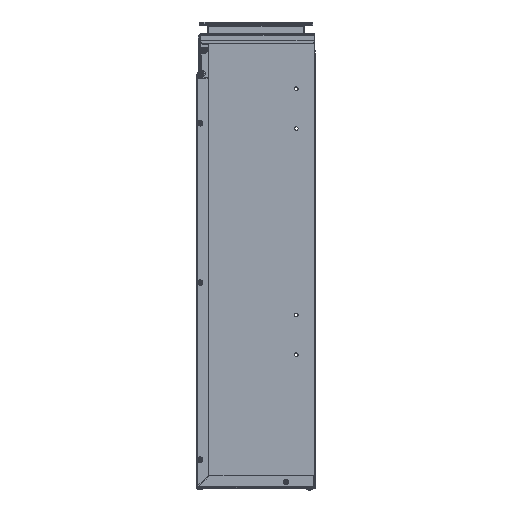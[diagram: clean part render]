
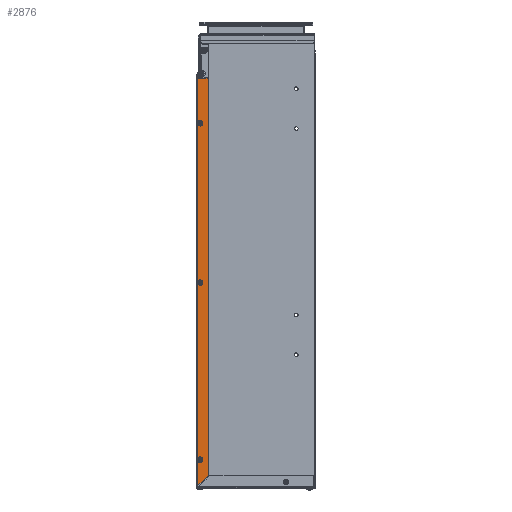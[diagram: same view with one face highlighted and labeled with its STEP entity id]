
A CAD part, left-side view. The second image highlights one B-rep face of the part: STEP entity #2876.
In plain terms, the highlighted planar face has unit normal (-1, 0, 0).
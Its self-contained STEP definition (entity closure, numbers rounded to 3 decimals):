
#145 = ORIENTED_EDGE ( 'NONE', *, *, #45522, .T. ) ;
#370 = FACE_BOUND ( 'NONE', #34185, .T. ) ;
#1682 = AXIS2_PLACEMENT_3D ( 'NONE', #19118, #27273, #39101 ) ;
#1796 = DIRECTION ( 'NONE',  ( 0., 1., 0. ) ) ;
#2004 = DIRECTION ( 'NONE',  ( 0., 0.707, -0.707 ) ) ;
#2162 = DIRECTION ( 'NONE',  ( 0., 0., 1. ) ) ;
#2625 = VERTEX_POINT ( 'NONE', #6181 ) ;
#2665 = DIRECTION ( 'NONE',  ( -1., 0., 0. ) ) ;
#2876 = ADVANCED_FACE ( 'NONE', ( #48918, #370, #44492, #12722 ), #12443, .F. ) ;
#3477 = EDGE_CURVE ( 'NONE', #45363, #15879, #49457, .T. ) ;
#5079 = CARTESIAN_POINT ( 'NONE',  ( -275.75, -2.625, -199.22 ) ) ;
#5228 = VERTEX_POINT ( 'NONE', #40231 ) ;
#5310 = VERTEX_POINT ( 'NONE', #8436 ) ;
#6181 = CARTESIAN_POINT ( 'NONE',  ( -275.75, -13.4, 231.6 ) ) ;
#6186 = VERTEX_POINT ( 'NONE', #18260 ) ;
#6212 = CARTESIAN_POINT ( 'NONE',  ( -275.75, -4.5, 0.78 ) ) ;
#7837 = CARTESIAN_POINT ( 'NONE',  ( -275.75, -4.5, 180.78 ) ) ;
#8194 = VERTEX_POINT ( 'NONE', #33700 ) ;
#8436 = CARTESIAN_POINT ( 'NONE',  ( -275.75, -6.375, 0.78 ) ) ;
#9959 = CIRCLE ( 'NONE', #40165, 1.875 ) ;
#10365 = EDGE_CURVE ( 'NONE', #23731, #36440, #14333, .T. ) ;
#10857 = EDGE_LOOP ( 'NONE', ( #11989, #29069 ) ) ;
#10921 = DIRECTION ( 'NONE',  ( -1., 0., 0. ) ) ;
#11343 = EDGE_LOOP ( 'NONE', ( #46153, #35085 ) ) ;
#11541 = CARTESIAN_POINT ( 'NONE',  ( -275.75, -4.5, -199.22 ) ) ;
#11643 = LINE ( 'NONE', #44467, #26635 ) ;
#11989 = ORIENTED_EDGE ( 'NONE', *, *, #3477, .F. ) ;
#12443 = PLANE ( 'NONE',  #14199 ) ;
#12722 = FACE_OUTER_BOUND ( 'NONE', #28098, .T. ) ;
#12975 = DIRECTION ( 'NONE',  ( 0., -1., 0. ) ) ;
#13624 = ORIENTED_EDGE ( 'NONE', *, *, #43304, .T. ) ;
#14073 = CARTESIAN_POINT ( 'NONE',  ( -275.75, -13.4, 230.6 ) ) ;
#14199 = AXIS2_PLACEMENT_3D ( 'NONE', #28474, #40023, #12975 ) ;
#14252 = CIRCLE ( 'NONE', #50275, 1.875 ) ;
#14263 = VECTOR ( 'NONE', #2162, 1000. ) ;
#14333 = LINE ( 'NONE', #29818, #49110 ) ;
#14513 = ORIENTED_EDGE ( 'NONE', *, *, #46318, .F. ) ;
#15076 = DIRECTION ( 'NONE',  ( -1., 0., 0. ) ) ;
#15879 = VERTEX_POINT ( 'NONE', #20954 ) ;
#16237 = VERTEX_POINT ( 'NONE', #47938 ) ;
#17426 = CIRCLE ( 'NONE', #19098, 1. ) ;
#17534 = EDGE_CURVE ( 'NONE', #6186, #42514, #14252, .T. ) ;
#18126 = ORIENTED_EDGE ( 'NONE', *, *, #45456, .F. ) ;
#18260 = CARTESIAN_POINT ( 'NONE',  ( -275.75, -2.625, 180.78 ) ) ;
#18638 = DIRECTION ( 'NONE',  ( -1., 0., 0. ) ) ;
#19098 = AXIS2_PLACEMENT_3D ( 'NONE', #14073, #10921, #22985 ) ;
#19118 = CARTESIAN_POINT ( 'NONE',  ( -275.75, -4.5, 180.78 ) ) ;
#19974 = CARTESIAN_POINT ( 'NONE',  ( -275.75, -6.375, 180.78 ) ) ;
#20954 = CARTESIAN_POINT ( 'NONE',  ( -275.75, -6.375, -199.22 ) ) ;
#22180 = LINE ( 'NONE', #38498, #48431 ) ;
#22221 = CARTESIAN_POINT ( 'NONE',  ( -275.75, -4.5, -199.22 ) ) ;
#22985 = DIRECTION ( 'NONE',  ( 0., 1., 0. ) ) ;
#23373 = DIRECTION ( 'NONE',  ( 0., 1., 0. ) ) ;
#23731 = VERTEX_POINT ( 'NONE', #36055 ) ;
#24296 = CIRCLE ( 'NONE', #1682, 1.875 ) ;
#26137 = CARTESIAN_POINT ( 'NONE',  ( -275.75, -4.5, 0.78 ) ) ;
#26249 = ORIENTED_EDGE ( 'NONE', *, *, #28846, .T. ) ;
#26635 = VECTOR ( 'NONE', #51513, 1000. ) ;
#26838 = AXIS2_PLACEMENT_3D ( 'NONE', #11541, #2665, #23373 ) ;
#26900 = AXIS2_PLACEMENT_3D ( 'NONE', #26137, #15076, #46322 ) ;
#27273 = DIRECTION ( 'NONE',  ( -1., 0., 0. ) ) ;
#28098 = EDGE_LOOP ( 'NONE', ( #50571, #145, #13624, #26249, #48969, #18126 ) ) ;
#28474 = CARTESIAN_POINT ( 'NONE',  ( -275.75, 0., 0. ) ) ;
#28846 = EDGE_CURVE ( 'NONE', #5228, #2625, #17426, .T. ) ;
#29069 = ORIENTED_EDGE ( 'NONE', *, *, #38729, .F. ) ;
#29818 = CARTESIAN_POINT ( 'NONE',  ( -275.75, -327.681, 96.788 ) ) ;
#29854 = DIRECTION ( 'NONE',  ( 0., 1., 0. ) ) ;
#31053 = CIRCLE ( 'NONE', #38619, 1. ) ;
#31778 = ORIENTED_EDGE ( 'NONE', *, *, #38715, .F. ) ;
#32606 = CIRCLE ( 'NONE', #41833, 1.875 ) ;
#32818 = VERTEX_POINT ( 'NONE', #46383 ) ;
#33700 = CARTESIAN_POINT ( 'NONE',  ( -275.75, -14.4, -216.079 ) ) ;
#34185 = EDGE_LOOP ( 'NONE', ( #31778, #14513 ) ) ;
#35085 = ORIENTED_EDGE ( 'NONE', *, *, #49586, .F. ) ;
#35192 = CARTESIAN_POINT ( 'NONE',  ( -275.75, -13.4, -216.079 ) ) ;
#36055 = CARTESIAN_POINT ( 'NONE',  ( -275.75, -14.107, -216.786 ) ) ;
#36440 = VERTEX_POINT ( 'NONE', #41970 ) ;
#37099 = EDGE_CURVE ( 'NONE', #2625, #16237, #11643, .T. ) ;
#37774 = DIRECTION ( 'NONE',  ( -1., 0., 0. ) ) ;
#38498 = CARTESIAN_POINT ( 'NONE',  ( -275.75, -14.4, 0. ) ) ;
#38619 = AXIS2_PLACEMENT_3D ( 'NONE', #35192, #51141, #45499 ) ;
#38636 = DIRECTION ( 'NONE',  ( 0., 1., 0. ) ) ;
#38715 = EDGE_CURVE ( 'NONE', #32818, #5310, #32606, .T. ) ;
#38729 = EDGE_CURVE ( 'NONE', #15879, #45363, #9959, .T. ) ;
#39101 = DIRECTION ( 'NONE',  ( 0., 1., 0. ) ) ;
#40023 = DIRECTION ( 'NONE',  ( 1., 0., 0. ) ) ;
#40165 = AXIS2_PLACEMENT_3D ( 'NONE', #22221, #41961, #29854 ) ;
#40231 = CARTESIAN_POINT ( 'NONE',  ( -275.75, -14.4, 230.6 ) ) ;
#41833 = AXIS2_PLACEMENT_3D ( 'NONE', #6212, #37774, #1796 ) ;
#41961 = DIRECTION ( 'NONE',  ( -1., 0., 0. ) ) ;
#41970 = CARTESIAN_POINT ( 'NONE',  ( -275.75, -1.8, -229.093 ) ) ;
#42514 = VERTEX_POINT ( 'NONE', #19974 ) ;
#43304 = EDGE_CURVE ( 'NONE', #8194, #5228, #22180, .T. ) ;
#44467 = CARTESIAN_POINT ( 'NONE',  ( -275.75, 0., 231.6 ) ) ;
#44492 = FACE_BOUND ( 'NONE', #11343, .T. ) ;
#45363 = VERTEX_POINT ( 'NONE', #5079 ) ;
#45456 = EDGE_CURVE ( 'NONE', #36440, #16237, #46253, .T. ) ;
#45499 = DIRECTION ( 'NONE',  ( 0., 1., 0. ) ) ;
#45522 = EDGE_CURVE ( 'NONE', #23731, #8194, #31053, .T. ) ;
#46153 = ORIENTED_EDGE ( 'NONE', *, *, #17534, .F. ) ;
#46253 = LINE ( 'NONE', #51398, #14263 ) ;
#46318 = EDGE_CURVE ( 'NONE', #5310, #32818, #49516, .T. ) ;
#46322 = DIRECTION ( 'NONE',  ( 0., 1., 0. ) ) ;
#46383 = CARTESIAN_POINT ( 'NONE',  ( -275.75, -2.625, 0.78 ) ) ;
#47938 = CARTESIAN_POINT ( 'NONE',  ( -275.75, -1.8, 231.6 ) ) ;
#48431 = VECTOR ( 'NONE', #51018, 1000. ) ;
#48918 = FACE_BOUND ( 'NONE', #10857, .T. ) ;
#48969 = ORIENTED_EDGE ( 'NONE', *, *, #37099, .T. ) ;
#49110 = VECTOR ( 'NONE', #2004, 1000. ) ;
#49457 = CIRCLE ( 'NONE', #26838, 1.875 ) ;
#49516 = CIRCLE ( 'NONE', #26900, 1.875 ) ;
#49586 = EDGE_CURVE ( 'NONE', #42514, #6186, #24296, .T. ) ;
#50275 = AXIS2_PLACEMENT_3D ( 'NONE', #7837, #18638, #38636 ) ;
#50571 = ORIENTED_EDGE ( 'NONE', *, *, #10365, .F. ) ;
#51018 = DIRECTION ( 'NONE',  ( 0., 0., 1. ) ) ;
#51141 = DIRECTION ( 'NONE',  ( -1., 0., 0. ) ) ;
#51398 = CARTESIAN_POINT ( 'NONE',  ( -275.75, -1.8, 231.6 ) ) ;
#51513 = DIRECTION ( 'NONE',  ( 0., 1., 0. ) ) ;
